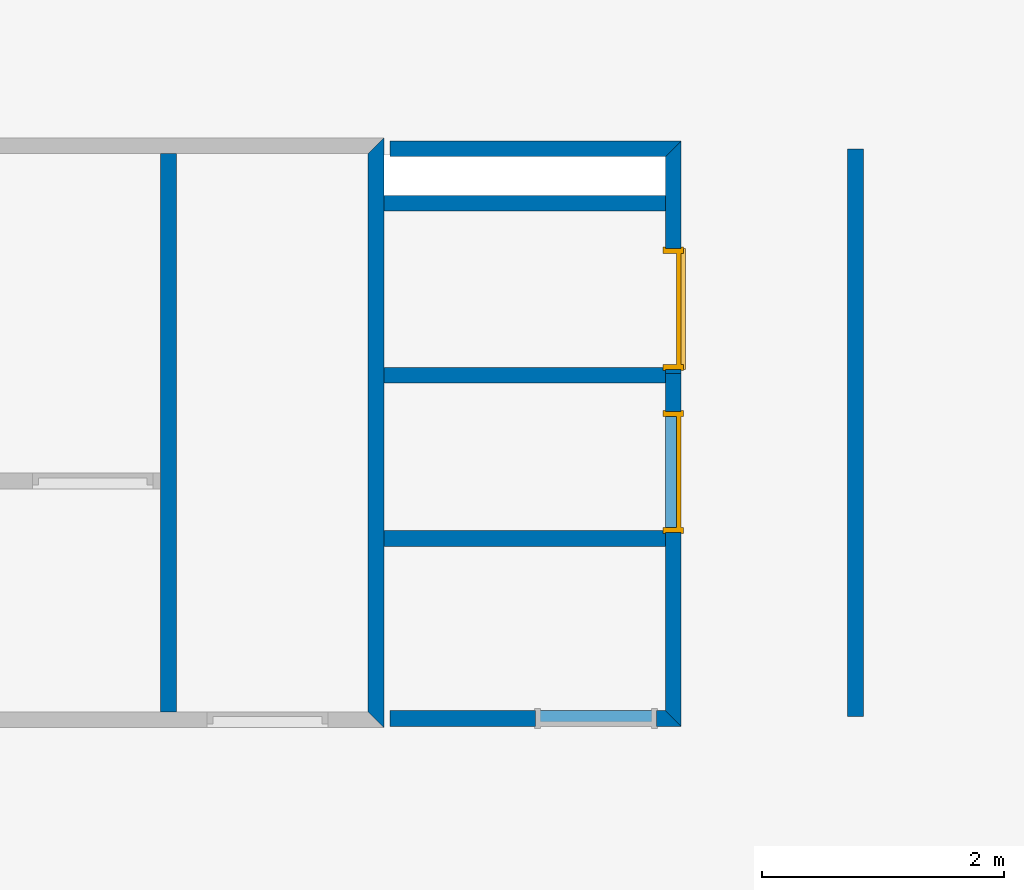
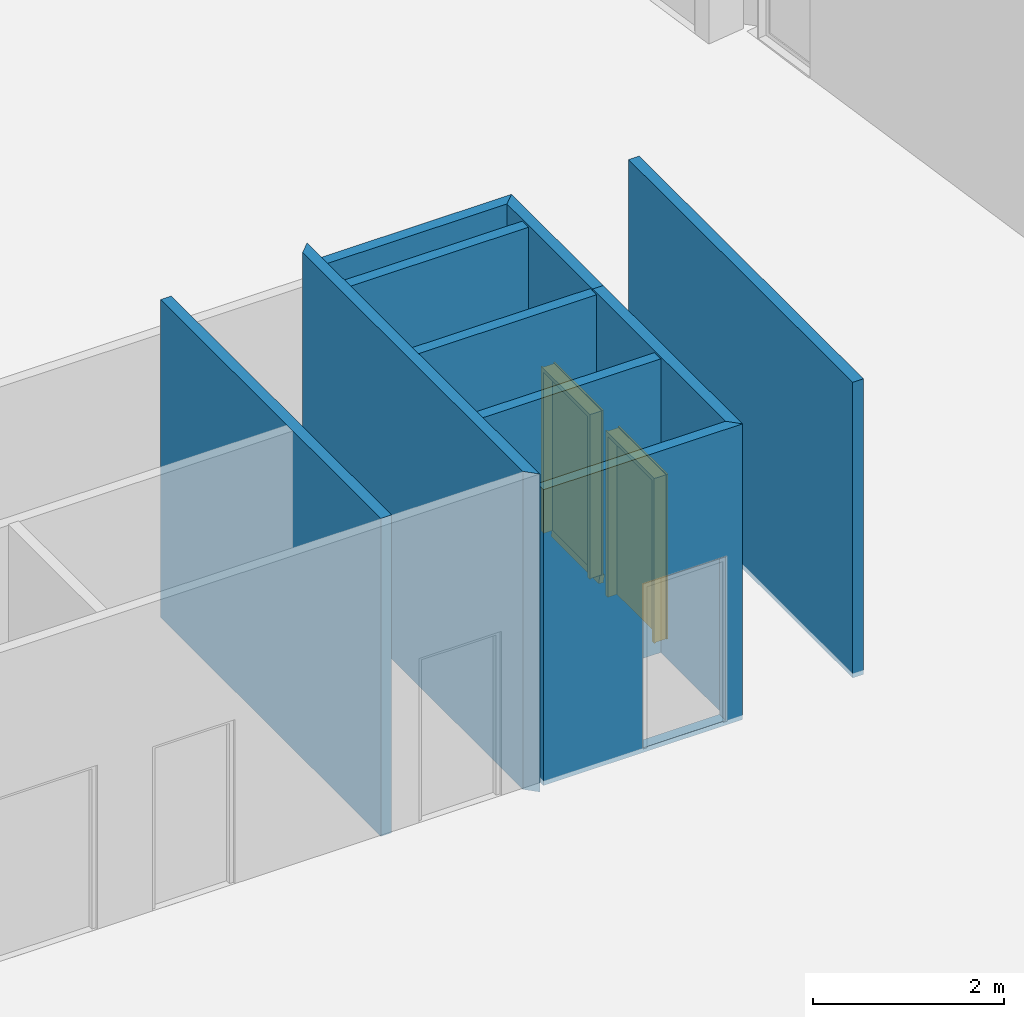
# One storey, part 4 of 9: 10 walls, 2 doors, 3 openings.
"""IFC2X3 building model written with IfcOpenShell, lengths in metres."""

from ifc_helpers import new_model, entity, si_unit, converted_unit, money_unit, direction, frame, origin_with_axes, origin_2d_with_axis, place, context, subcontext, project, spatial, polyline, rectangle, outline, extrude, faceted_brep, source, transform, mapped, material, material_list, layer, layer_set, layer_usage, type_object, element, fill, save


model = new_model("IFC2X3")

# Units and contexts
model_context = context("Model", 3, precision=1e-05, world=origin_with_axes(), true_north=direction((0.0, 1.0)))
body_context = subcontext(model_context, "Body", "Model", "MODEL_VIEW")
ifc_project = project(units=[si_unit("LENGTHUNIT", "METRE"), si_unit("AREAUNIT", "SQUARE_METRE"), si_unit("VOLUMEUNIT", "CUBIC_METRE"), converted_unit("PLANEANGLEUNIT", "DEGREE", entity("IfcPlaneAngleMeasure", 0.0174532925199), si_unit("PLANEANGLEUNIT", "RADIAN"), dimensions=[0, 0, 0, 0, 0, 0, 0]), si_unit("SOLIDANGLEUNIT", "STERADIAN"), money_unit("EUR"), converted_unit("TIMEUNIT", "Year", entity("IfcTimeMeasure", 31556926.0), si_unit("TIMEUNIT", "SECOND"), dimensions=[0, 0, 0, 0, 0, 0, 0]), si_unit("MASSUNIT", "GRAM"), si_unit("THERMODYNAMICTEMPERATUREUNIT", "DEGREE_CELSIUS"), si_unit("LUMINOUSINTENSITYUNIT", "LUMEN")], contexts=[model_context])

# Site, building, storey
site_placement = place(None, origin_with_axes())
site = spatial("IfcSite", under=ifc_project, at=site_placement, Name="Undefined", CompositionType="ELEMENT")
building_placement = place(site_placement, origin_with_axes())
building = spatial("IfcBuilding", under=site, at=building_placement, Name="Undefined", CompositionType="ELEMENT")
storey_placement = place(building_placement, frame((0.0, 0.0, 13.45), z_axis=(0.0, 0.0, 1.0), x_axis=(1.0, 0.0, 0.0)))
storey = spatial("IfcBuildingStorey", under=building, at=storey_placement, Name="R+2", CompositionType="ELEMENT", Elevation=13.45)

# Walls
ifc_material_1 = material(Name="Finition int - Enduit pl\x89tre")
ifc_layer_1 = layer(ifc_material_1, 0.015, ventilated="UNKNOWN")
ifc_material_2 = material(Name="Struct. - Parpaing b\x8eton")
ifc_layer_2 = layer(ifc_material_2, 0.1, ventilated="UNKNOWN")
ifc_layer_3 = layer(ifc_material_1, 0.015, ventilated="UNKNOWN")
ifc_layer_set = layer_set([ifc_layer_1, ifc_layer_2, ifc_layer_3], Name="0.0-Cloison: parpaing + pl\x89tre 2 faces copie")
ifc_layer_usage_1 = layer_usage(ifc_layer_set, "AXIS2", "POSITIVE", -0.05)
wall_type = type_object("IfcWallType", Name="0.0-Cloison: parpaing + pl\x89tre 2 faces copie 130", PredefinedType="NOTDEFINED")
wall_1_placement = place(storey_placement, frame((60.8842827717, 9.275, -0.0600000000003), z_axis=(0.0, 0.0, 1.0), x_axis=(0.0, 1.0, 0.0)))
element("IfcWallStandardCase", 1, at=wall_1_placement, inside=storey, type_object=wall_type, material=ifc_layer_usage_1, Name="Wall_Int", context=body_context, shape_type="SweptSolid", body=[
    extrude(outline(polyline([(0.0, -0.05), (4.70000000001, -0.05), (4.70000000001, 0.08), (0.0, 0.08), (0.0, -0.05)])), origin_with_axes(), (0.0, 0.0, 1.0), 3.785),
])
ifc_layer_usage_2 = layer_usage(ifc_layer_set, "AXIS2", "NEGATIVE", 0.0)
wall_2_placement = place(storey_placement, frame((56.835, 9.3149999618, -0.12), z_axis=(0.0, 0.0, 1.0), x_axis=(0.0, 1.0, 0.0)))
element("IfcWallStandardCase", 2, at=wall_2_placement, inside=storey, type_object=wall_type, material=ifc_layer_usage_2, Name="Wall_Int_07", context=body_context, shape_type="SweptSolid", body=[
    extrude(outline(polyline([(-0.13, -0.13), (4.7500000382, -0.13), (4.6200000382, 0.0), (0.0, 0.0), (-0.13, -0.13)])), origin_with_axes(), (0.0, 0.0, 1.0), 4.07),
])
ifc_layer_usage_3 = layer_usage(ifc_layer_set, "AXIS2", "POSITIVE", -0.05)
wall_3_placement = place(storey_placement, frame((59.375, 13.99, -0.0600000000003), z_axis=(0.0, 0.0, 1.0), x_axis=(-1.0, 0.0, 0.0)))
element("IfcWallStandardCase", 3, at=wall_3_placement, inside=storey, type_object=wall_type, material=ifc_layer_usage_3, Name="Wall_Int_05", context=body_context, shape_type="SweptSolid", body=[
    extrude(outline(polyline([(-0.05, -0.05), (2.36, -0.05), (2.36, 0.08), (0.08, 0.08), (-0.05, -0.05)])), origin_with_axes(), (0.0, 0.0, 1.0), 3.785),
])

# Wall, opening, door
ifc_layer_usage_4 = layer_usage(ifc_layer_set, "AXIS2", "POSITIVE", -0.05)
wall_4_placement = place(storey_placement, frame((59.375, 9.245, -0.0600000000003), z_axis=(0.0, 0.0, 1.0), x_axis=(0.0, 1.0, 0.0)))
wall_4 = element("IfcWallStandardCase", 4, at=wall_4_placement, inside=storey, type_object=wall_type, material=ifc_layer_usage_4, Name="Wall_Int_05", context=body_context, shape_type="SweptSolid", body=[
    extrude(outline(polyline([(-0.05, -0.05), (2.86999999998, -0.05), (2.86999999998, 0.08), (0.08, 0.08), (-0.05, -0.05)])), origin_with_axes(), (0.0, 0.0, 1.0), 3.785),
])
opening_1_placement = place(wall_4_placement, frame((2.05446837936, 0.0, 0.06), z_axis=(0.0, 0.0, 1.0), x_axis=(1.0, 0.0, 0.0)))
opening_1 = element("IfcOpeningElement", 5, at=opening_1_placement, cuts=wall_4, Name="DOOR_1000", context=body_context, shape_type="SweptSolid", body=[
    extrude(rectangle(XDim=1.0, YDim=2.1, at=origin_2d_with_axis()), frame((0.0, 0.13, 1.05), z_axis=(0.0, -1.0, 0.0), x_axis=(-1.0, 0.0, 0.0)), (0.0, 0.0, 1.0), 0.39),
    extrude(rectangle(XDim=1.02, YDim=2.11, at=origin_2d_with_axis()), frame((0.0, 0.21, 1.055), z_axis=(0.0, -1.0, 0.0), x_axis=(-1.0, 0.0, 0.0)), (0.0, 0.0, 1.0), 0.13),
    extrude(rectangle(XDim=1.02, YDim=2.11, at=origin_2d_with_axis()), frame((0.0, -0.18, 1.055), z_axis=(0.0, 1.0, 0.0), x_axis=(-1.0, 0.0, 0.0)), (0.0, 0.0, 1.0), 0.13),
])
ifc_material_3 = material(Name="Empty Fill")
ifc_material_4 = material(Name="Air Space")
ifc_material_5 = material(Name="Foreground")
ifc_material_6 = material(Name="Background Fill-International")
ifc_material_7 = material(Name="Rigid Insulation")
ifc_material_8 = material(Name="Background")
ifc_material_list = material_list([ifc_material_3, ifc_material_4, ifc_material_5, ifc_material_3, ifc_material_6, ifc_material_3, ifc_material_3, ifc_material_7, ifc_material_6, ifc_material_3, ifc_material_3, ifc_material_3, ifc_material_4, ifc_material_8, ifc_material_8, ifc_material_6])
door_style = type_object("IfcDoorStyle", Name="Porte 18", ConstructionType="NOTDEFINED", OperationType="SINGLE_SWING_RIGHT", ParameterTakesPrecedence=False, Sizeable=False)
shared_shape_1 = source(origin_with_axes(), body_context, "Body", "Brep", [
    faceted_brep([(-0.51, -0.149, 0.0), (-0.51, -0.13, 0.0), (-0.46, -0.13, 0.0), (-0.46, -0.149, 0.0), (-0.51, -0.149, 2.11), (-0.51, -0.13, 2.11), (-0.46, -0.13, 2.06), (-0.46, -0.149, 2.06)], [[[0, 1, 2, 3]], [[4, 5, 1, 0]], [[1, 5, 6, 2]], [[3, 2, 6, 7]], [[0, 3, 7, 4]], [[7, 6, 5, 4]]]),
    faceted_brep([(0.51, -0.149, 2.11), (0.51, -0.13, 2.11), (0.46, -0.13, 2.06), (0.46, -0.149, 2.06), (0.51, -0.149, 0.0), (0.51, -0.13, 0.0), (0.46, -0.13, 0.0), (0.46, -0.149, 0.0)], [[[0, 1, 2, 3]], [[4, 5, 1, 0]], [[1, 5, 6, 2]], [[3, 2, 6, 7]], [[0, 3, 7, 4]], [[7, 6, 5, 4]]]),
    faceted_brep([(-0.51, -0.149, 2.11), (-0.51, -0.13, 2.11), (-0.46, -0.13, 2.06), (-0.46, -0.149, 2.06), (0.51, -0.149, 2.11), (0.51, -0.13, 2.11), (0.46, -0.13, 2.06), (0.46, -0.149, 2.06)], [[[0, 1, 2, 3]], [[4, 5, 1, 0]], [[1, 5, 6, 2]], [[3, 2, 6, 7]], [[0, 3, 7, 4]], [[7, 6, 5, 4]]]),
    faceted_brep([(-0.51, 0.019, 0.0), (-0.46, 0.019, 0.0), (-0.46, 0.0, 0.0), (-0.51, 0.0, 0.0), (-0.51, 0.019, 2.11), (-0.46, 0.019, 2.06), (-0.46, 0.0, 2.06), (-0.51, 0.0, 2.11)], [[[0, 1, 2, 3]], [[0, 4, 5, 1]], [[1, 5, 6, 2]], [[3, 2, 6, 7]], [[4, 0, 3, 7]], [[5, 4, 7, 6]]]),
    faceted_brep([(0.51, 0.019, 2.11), (0.46, 0.019, 2.06), (0.46, 0.0, 2.06), (0.51, 0.0, 2.11), (0.51, 0.019, 0.0), (0.46, 0.019, 0.0), (0.46, 0.0, 0.0), (0.51, 0.0, 0.0)], [[[0, 1, 2, 3]], [[0, 4, 5, 1]], [[1, 5, 6, 2]], [[3, 2, 6, 7]], [[4, 0, 3, 7]], [[5, 4, 7, 6]]]),
    faceted_brep([(-0.51, 0.019, 2.11), (-0.46, 0.019, 2.06), (-0.46, 0.0, 2.06), (-0.51, 0.0, 2.11), (0.51, 0.019, 2.11), (0.46, 0.019, 2.06), (0.46, 0.0, 2.06), (0.51, 0.0, 2.11)], [[[0, 1, 2, 3]], [[0, 4, 5, 1]], [[1, 5, 6, 2]], [[3, 2, 6, 7]], [[4, 0, 3, 7]], [[5, 4, 7, 6]]]),
    faceted_brep([(-0.46, -0.04, 0.0), (-0.46, -0.04, 2.06), (-0.46, -0.13, 2.06), (-0.46, -0.13, 0.0), (-0.472, -0.04, 2.06), (-0.472, -0.04, 0.0), (-0.472, 0.0, 2.06), (-0.5, 0.0, 2.06), (-0.5, -0.13, 2.06), (-0.5, -0.13, 0.0), (-0.5, 0.0, 0.0), (-0.472, 0.0, 0.0)], [[[0, 1, 2, 3]], [[4, 1, 0, 5]], [[4, 6, 7, 8, 2, 1]], [[8, 9, 3, 2]], [[5, 0, 3, 9, 10, 11]], [[6, 4, 5, 11]], [[6, 11, 10, 7]], [[8, 7, 10, 9]]]),
    faceted_brep([(0.472, -0.04, 2.06), (0.46, -0.04, 2.06), (0.46, -0.13, 2.06), (0.5, -0.13, 2.06), (0.5, 0.0, 2.06), (0.472, 0.0, 2.06), (0.472, -0.04, 0.0), (0.46, -0.04, 0.0), (0.46, -0.13, 0.0), (0.5, -0.13, 0.0), (0.5, 0.0, 0.0), (0.472, 0.0, 0.0)], [[[0, 1, 2, 3, 4, 5]], [[1, 0, 6, 7]], [[1, 7, 8, 2]], [[8, 9, 3, 2]], [[9, 10, 4, 3]], [[11, 5, 4, 10]], [[0, 5, 11, 6]], [[6, 11, 10, 9, 8, 7]]]),
    faceted_brep([(-0.472, 0.0, 2.072), (-0.472, 0.0, 2.06), (-0.5, 0.0, 2.06), (-0.5, 0.0, 2.1), (0.5, 0.0, 2.1), (0.5, 0.0, 2.06), (0.472, 0.0, 2.06), (0.472, 0.0, 2.072), (-0.472, -0.04, 2.072), (-0.472, -0.04, 2.06), (-0.46, -0.04, 2.06), (-0.46, -0.13, 2.06), (-0.5, -0.13, 2.06), (-0.5, -0.13, 2.1), (0.5, -0.13, 2.1), (0.5, -0.13, 2.06), (0.472, -0.04, 2.06), (0.46, -0.13, 2.06), (0.46, -0.04, 2.06), (0.472, -0.04, 2.072)], [[[0, 1, 2, 3, 4, 5, 6, 7]], [[1, 0, 8, 9]], [[9, 10, 11, 12, 2, 1]], [[13, 3, 2, 12]], [[14, 4, 3, 13]], [[15, 5, 4, 14]], [[16, 6, 5, 15, 17, 18]], [[7, 6, 16, 19]], [[0, 7, 19, 8]], [[16, 18, 10, 9, 8, 19]], [[10, 18, 17, 11]], [[14, 13, 12, 11, 17, 15]]]),
    faceted_brep([(0.472, 0.0, 0.0), (0.472, -0.04, 0.0), (-0.472, -0.04, 0.0), (-0.472, 0.0, 0.0), (0.472, 0.0, 2.072), (0.472, -0.04, 2.072), (-0.472, -0.04, 2.072), (-0.472, 0.0, 2.072)], [[[0, 1, 2, 3]], [[4, 5, 1, 0]], [[1, 5, 6, 2]], [[3, 2, 6, 7]], [[0, 3, 7, 4]], [[7, 6, 5, 4]]]),
])
door_1_placement = place(opening_1_placement, frame((0.5, 0.0, 0.0), z_axis=(0.0, 0.0, 1.0), x_axis=(-1.0, 0.0, 0.0)))
door_1 = element("IfcDoor", 6, at=door_1_placement, inside=storey, type_object=door_style, material=ifc_material_list, Name="DOOR_1000", ObjectType="DOOR", OverallHeight=2.1, OverallWidth=1.0, context=body_context, shape_type="MappedRepresentation", body=[
    mapped(shared_shape_1, transform((0.5, 0.05, 0.0))),
])
fill(opening_1, door_1)

# Walls
ifc_layer_usage_5 = layer_usage(ifc_layer_set, "AXIS2", "POSITIVE", -0.05)
wall_5_placement = place(storey_placement, frame((59.375, 10.7644683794, -0.0600000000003), z_axis=(0.0, 0.0, 1.0), x_axis=(-1.0, 0.0, 0.0)))
element("IfcWallStandardCase", 7, at=wall_5_placement, inside=storey, type_object=wall_type, material=ifc_layer_usage_5, Name="Wall_Int_07", context=body_context, shape_type="SweptSolid", body=[
    extrude(outline(polyline([(0.08, -0.05), (2.41, -0.05), (2.41, 0.08), (0.08, 0.08), (0.08, -0.05)])), origin_with_axes(), (0.0, 0.0, 1.0), 3.76),
])
ifc_layer_usage_6 = layer_usage(ifc_layer_set, "AXIS2", "NEGATIVE", 0.05)
wall_6_placement = place(storey_placement, frame((59.375, 13.51, -0.0600000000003), z_axis=(0.0, 0.0, 1.0), x_axis=(-1.0, 0.0, 0.0)))
element("IfcWallStandardCase", 8, at=wall_6_placement, inside=storey, type_object=wall_type, material=ifc_layer_usage_6, Name="Wall_Int_07", context=body_context, shape_type="SweptSolid", body=[
    extrude(outline(polyline([(0.08, -0.08), (2.41, -0.08), (2.41, 0.05), (0.08, 0.05), (0.08, -0.08)])), origin_with_axes(), (0.0, 0.0, 1.0), 3.76),
])

# Wall, opening
ifc_layer_usage_7 = layer_usage(ifc_layer_set, "AXIS2", "POSITIVE", -0.05)
wall_7_placement = place(storey_placement, frame((57.015, 9.245, -0.0600000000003), z_axis=(0.0, 0.0, 1.0), x_axis=(1.0, 0.0, 0.0)))
wall_7 = element("IfcWallStandardCase", 9, at=wall_7_placement, inside=storey, type_object=wall_type, material=ifc_layer_usage_7, Name="Wall_Int_05", context=body_context, shape_type="SweptSolid", body=[
    extrude(outline(polyline([(0.0, -0.05), (2.41, -0.05), (2.28, 0.08), (0.0, 0.08), (0.0, -0.05)])), origin_with_axes(), (0.0, 0.0, 1.0), 3.785),
])
opening_2_placement = place(wall_7_placement, frame((1.70478199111, 0.0, 0.0600000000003), z_axis=(0.0, 0.0, 1.0), x_axis=(1.0, 0.0, 0.0)))
element("IfcOpeningElement", 10, at=opening_2_placement, cuts=wall_7, Name="DOOR_1000", context=body_context, shape_type="SweptSolid", body=[
    extrude(rectangle(XDim=1.0, YDim=2.1, at=origin_2d_with_axis()), frame((0.0, 0.13, 1.05), z_axis=(0.0, 1.0, 0.0), x_axis=(1.0, 0.0, 0.0)), (0.0, 0.0, -1.0), 0.39),
    extrude(rectangle(XDim=1.02, YDim=2.11, at=origin_2d_with_axis()), frame((0.0, 0.21, 1.055), z_axis=(0.0, 1.0, 0.0), x_axis=(1.0, 0.0, 0.0)), (0.0, 0.0, -1.0), 0.13),
    extrude(rectangle(XDim=1.02, YDim=2.11, at=origin_2d_with_axis()), frame((0.0, -0.18, 1.055), z_axis=(0.0, -1.0, 0.0), x_axis=(1.0, 0.0, 0.0)), (0.0, 0.0, -1.0), 0.13),
])

# Wall
ifc_layer_usage_8 = layer_usage(ifc_layer_set, "AXIS2", "POSITIVE", -0.05)
wall_8_placement = place(storey_placement, frame((59.375, 12.115, -0.0600000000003), z_axis=(0.0, 0.0, 1.0), x_axis=(-1.0, 0.0, 0.0)))
element("IfcWallStandardCase", 11, at=wall_8_placement, inside=storey, type_object=wall_type, material=ifc_layer_usage_8, Name="Wall_Int_07", context=body_context, shape_type="SweptSolid", body=[
    extrude(outline(polyline([(0.08, -0.05), (2.41, -0.05), (2.41, 0.08), (0.08, 0.08), (0.08, -0.05)])), origin_with_axes(), (0.0, 0.0, 1.0), 3.76),
])

# Wall, opening, door
ifc_layer_usage_9 = layer_usage(ifc_layer_set, "AXIS2", "POSITIVE", -0.05)
wall_9_placement = place(storey_placement, frame((59.375, 12.115, 0.0), z_axis=(0.0, 0.0, 1.0), x_axis=(0.0, 1.0, 0.0)))
wall_9 = element("IfcWallStandardCase", 12, at=wall_9_placement, inside=storey, type_object=wall_type, material=ifc_layer_usage_9, Name="Wall_Int_05", context=body_context, shape_type="SweptSolid", body=[
    extrude(outline(polyline([(0.0, -0.05), (1.92500000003, -0.05), (1.79500000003, 0.08), (0.0, 0.08), (0.0, -0.05)])), origin_with_axes(), (0.0, 0.0, 1.0), 3.725),
])
opening_3_placement = place(wall_9_placement, frame((0.535, 0.0, 0.0), z_axis=(0.0, 0.0, 1.0), x_axis=(1.0, 0.0, 0.0)))
opening_3 = element("IfcOpeningElement", 13, at=opening_3_placement, cuts=wall_9, Name="DOOR_1000", context=body_context, shape_type="SweptSolid", body=[
    extrude(rectangle(XDim=1.0, YDim=2.1, at=origin_2d_with_axis()), frame((0.0, 0.13, 1.05), z_axis=(0.0, -1.0, 0.0), x_axis=(-1.0, 0.0, 0.0)), (0.0, 0.0, 1.0), 0.39),
    extrude(rectangle(XDim=1.0, YDim=0.105069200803, at=origin_2d_with_axis()), frame((0.0, -0.18, -0.0525346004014), z_axis=(0.0, 1.0, 0.0), x_axis=(-1.0, 0.0, 0.0)), (0.0, 0.0, 1.0), 0.167364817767),
    extrude(rectangle(XDim=1.02, YDim=2.11, at=origin_2d_with_axis()), frame((0.0, 0.21, 1.055), z_axis=(0.0, -1.0, 0.0), x_axis=(-1.0, 0.0, 0.0)), (0.0, 0.0, 1.0), 0.13),
    extrude(rectangle(XDim=1.02, YDim=2.2150692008, at=origin_2d_with_axis()), frame((0.0, -0.18, 1.0024653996), z_axis=(0.0, 1.0, 0.0), x_axis=(-1.0, 0.0, 0.0)), (0.0, 0.0, 1.0), 0.13),
])
shared_shape_2 = source(origin_with_axes(), body_context, "Body", "Brep", [
    faceted_brep([(-0.5, -0.02, 0.0), (0.5, -0.02, 0.0), (0.5, 0.0373648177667, -0.0101149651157), (-0.5, 0.0373648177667, -0.0101149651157), (-0.5, -0.0373648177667, -0.0984807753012), (0.5, -0.0373648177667, -0.0984807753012), (0.5, 0.02, -0.108595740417), (-0.5, 0.02, -0.108595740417)], [[[0, 1, 2, 3]], [[4, 5, 1, 0]], [[1, 5, 6, 2]], [[3, 2, 6, 7]], [[0, 3, 7, 4]], [[7, 6, 5, 4]]]),
    faceted_brep([(-0.51, -0.149, 0.0), (-0.51, -0.13, 0.0), (-0.46, -0.13, 0.0), (-0.46, -0.149, 0.0), (-0.51, -0.149, 2.11), (-0.51, -0.13, 2.11), (-0.46, -0.13, 2.06), (-0.46, -0.149, 2.06)], [[[0, 1, 2, 3]], [[4, 5, 1, 0]], [[1, 5, 6, 2]], [[3, 2, 6, 7]], [[0, 3, 7, 4]], [[7, 6, 5, 4]]]),
    faceted_brep([(0.51, -0.149, 2.11), (0.51, -0.13, 2.11), (0.46, -0.13, 2.06), (0.46, -0.149, 2.06), (0.51, -0.149, 0.0), (0.51, -0.13, 0.0), (0.46, -0.13, 0.0), (0.46, -0.149, 0.0)], [[[0, 1, 2, 3]], [[4, 5, 1, 0]], [[1, 5, 6, 2]], [[3, 2, 6, 7]], [[0, 3, 7, 4]], [[7, 6, 5, 4]]]),
    faceted_brep([(-0.51, -0.149, 2.11), (-0.51, -0.13, 2.11), (-0.46, -0.13, 2.06), (-0.46, -0.149, 2.06), (0.51, -0.149, 2.11), (0.51, -0.13, 2.11), (0.46, -0.13, 2.06), (0.46, -0.149, 2.06)], [[[0, 1, 2, 3]], [[4, 5, 1, 0]], [[1, 5, 6, 2]], [[3, 2, 6, 7]], [[0, 3, 7, 4]], [[7, 6, 5, 4]]]),
    faceted_brep([(-0.5, 0.0, -0.00352653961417), (-0.46, 0.0, -0.00352653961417), (-0.46, 0.0, 2.06), (-0.51, 0.0, 2.11), (-0.51, 0.0, -0.00352653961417), (-0.46, 0.019, -0.00687675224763), (-0.5, 0.019, -0.00687675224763), (-0.46, 0.019, 2.06), (-0.51, 0.019, 2.11), (-0.51, 0.019, -0.00687675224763)], [[[0, 1, 2, 3, 4]], [[5, 1, 0, 6]], [[1, 5, 7, 2]], [[2, 7, 8, 3]], [[3, 8, 9, 4]], [[0, 4, 9, 6]], [[6, 9, 8, 7, 5]]]),
    faceted_brep([(0.5, 0.0, -0.00352653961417), (0.51, 0.0, -0.00352653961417), (0.51, 0.0, 2.11), (0.46, 0.0, 2.06), (0.46, 0.0, -0.00352653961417), (0.5, 0.019, -0.00687675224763), (0.51, 0.019, -0.00687675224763), (0.51, 0.019, 2.11), (0.46, 0.019, 2.06), (0.46, 0.019, -0.00687675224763)], [[[0, 1, 2, 3, 4]], [[0, 5, 6, 1]], [[6, 7, 2, 1]], [[2, 7, 8, 3]], [[9, 4, 3, 8]], [[0, 4, 9, 5]], [[5, 9, 8, 7, 6]]]),
    faceted_brep([(-0.51, 0.019, 2.11), (-0.46, 0.019, 2.06), (-0.46, 0.0, 2.06), (-0.51, 0.0, 2.11), (0.51, 0.019, 2.11), (0.46, 0.019, 2.06), (0.46, 0.0, 2.06), (0.51, 0.0, 2.11)], [[[0, 1, 2, 3]], [[0, 4, 5, 1]], [[1, 5, 6, 2]], [[3, 2, 6, 7]], [[4, 0, 3, 7]], [[5, 4, 7, 6]]]),
    faceted_brep([(-0.46, -0.04, 0.0), (-0.46, -0.04, 2.06), (-0.46, -0.13, 2.06), (-0.46, -0.13, 0.0), (-0.472, -0.04, 2.06), (-0.472, -0.04, 0.0), (-0.472, 0.0, 2.06), (-0.5, 0.0, 2.06), (-0.5, -0.13, 2.06), (-0.5, -0.13, 0.0), (-0.5, 0.0, 0.0), (-0.472, 0.0, 0.0)], [[[0, 1, 2, 3]], [[4, 1, 0, 5]], [[4, 6, 7, 8, 2, 1]], [[8, 9, 3, 2]], [[5, 0, 3, 9, 10, 11]], [[6, 4, 5, 11]], [[6, 11, 10, 7]], [[8, 7, 10, 9]]]),
    faceted_brep([(0.472, -0.04, 2.06), (0.46, -0.04, 2.06), (0.46, -0.13, 2.06), (0.5, -0.13, 2.06), (0.5, 0.0, 2.06), (0.472, 0.0, 2.06), (0.472, -0.04, 0.0), (0.46, -0.04, 0.0), (0.46, -0.13, 0.0), (0.5, -0.13, 0.0), (0.5, 0.0, 0.0), (0.472, 0.0, 0.0)], [[[0, 1, 2, 3, 4, 5]], [[1, 0, 6, 7]], [[1, 7, 8, 2]], [[8, 9, 3, 2]], [[9, 10, 4, 3]], [[11, 5, 4, 10]], [[0, 5, 11, 6]], [[6, 11, 10, 9, 8, 7]]]),
    faceted_brep([(-0.472, 0.0, 2.072), (-0.472, 0.0, 2.06), (-0.5, 0.0, 2.06), (-0.5, 0.0, 2.1), (0.5, 0.0, 2.1), (0.5, 0.0, 2.06), (0.472, 0.0, 2.06), (0.472, 0.0, 2.072), (-0.472, -0.04, 2.072), (-0.472, -0.04, 2.06), (-0.46, -0.04, 2.06), (-0.46, -0.13, 2.06), (-0.5, -0.13, 2.06), (-0.5, -0.13, 2.1), (0.5, -0.13, 2.1), (0.5, -0.13, 2.06), (0.472, -0.04, 2.06), (0.46, -0.13, 2.06), (0.46, -0.04, 2.06), (0.472, -0.04, 2.072)], [[[0, 1, 2, 3, 4, 5, 6, 7]], [[1, 0, 8, 9]], [[9, 10, 11, 12, 2, 1]], [[13, 3, 2, 12]], [[14, 4, 3, 13]], [[15, 5, 4, 14]], [[16, 6, 5, 15, 17, 18]], [[7, 6, 16, 19]], [[0, 7, 19, 8]], [[16, 18, 10, 9, 8, 19]], [[10, 18, 17, 11]], [[14, 13, 12, 11, 17, 15]]]),
    faceted_brep([(0.472, 0.0, 0.0), (0.472, -0.04, 0.0), (-0.472, -0.04, 0.0), (-0.472, 0.0, 0.0), (0.472, 0.0, 2.072), (0.472, -0.04, 2.072), (-0.472, -0.04, 2.072), (-0.472, 0.0, 2.072)], [[[0, 1, 2, 3]], [[4, 5, 1, 0]], [[1, 5, 6, 2]], [[3, 2, 6, 7]], [[0, 3, 7, 4]], [[7, 6, 5, 4]]]),
])
door_2_placement = place(opening_3_placement, frame((0.5, 0.0, 0.0), z_axis=(0.0, 0.0, 1.0), x_axis=(-1.0, 0.0, 0.0)))
door_2 = element("IfcDoor", 14, at=door_2_placement, inside=storey, type_object=door_style, material=ifc_material_list, Name="DOOR_1000", ObjectType="DOOR", OverallHeight=2.1, OverallWidth=1.0, context=body_context, shape_type="MappedRepresentation", body=[
    mapped(shared_shape_2, transform((0.5, 0.05, 0.0))),
])
fill(opening_3, door_2)

# Wall
ifc_layer_usage_10 = layer_usage(ifc_layer_set, "AXIS2", "POSITIVE", 0.0)
wall_10_placement = place(storey_placement, frame((55.2463765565, 9.3149999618, -0.12), z_axis=(0.0, 0.0, 1.0), x_axis=(0.0, 1.0, 0.0)))
element("IfcWallStandardCase", 15, at=wall_10_placement, inside=storey, type_object=wall_type, material=ifc_layer_usage_10, Name="Wall_Int_05", context=body_context, shape_type="SweptSolid", body=[
    extrude(outline(polyline([(0.0, 0.0), (4.6200000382, 0.0), (4.6200000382, 0.13), (0.0, 0.13), (0.0, 0.0)])), origin_with_axes(), (0.0, 0.0, 1.0), 4.07),
])

save(model, "model.ifc")
